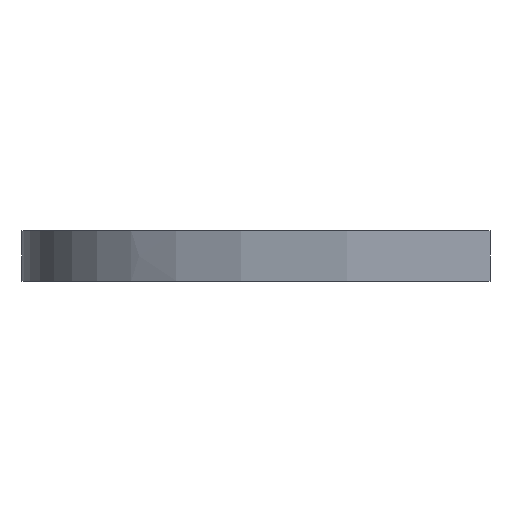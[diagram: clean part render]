
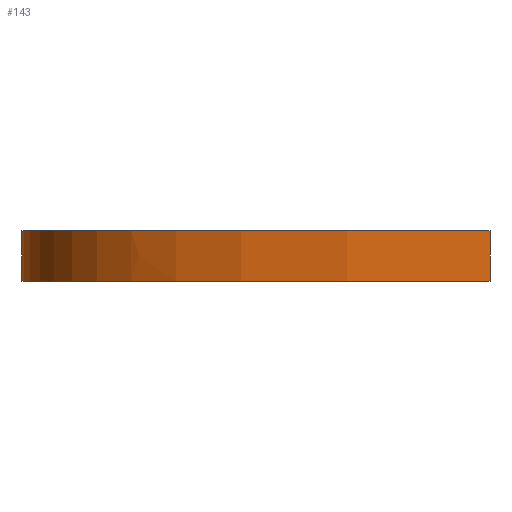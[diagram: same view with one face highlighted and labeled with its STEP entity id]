
A CAD part, front view. The second image highlights one B-rep face of the part: STEP entity #143.
In plain terms, the highlighted face is a extrusion surface.
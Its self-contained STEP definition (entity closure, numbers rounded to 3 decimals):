
#21 = EDGE_CURVE('',#22,#24,#26,.T.);
#22 = VERTEX_POINT('',#23);
#23 = CARTESIAN_POINT('',(-15.,-293.8,0.));
#24 = VERTEX_POINT('',#25);
#25 = CARTESIAN_POINT('',(-15.,-293.8,15.));
#26 = SURFACE_CURVE('',#27,(#31,#45),.PCURVE_S1.);
#27 = LINE('',#28,#29);
#28 = CARTESIAN_POINT('',(-15.,-293.8,0.));
#29 = VECTOR('',#30,1.);
#30 = DIRECTION('',(0.,0.,1.));
#31 = PCURVE('',#32,#39);
#32 = SURFACE_OF_LINEAR_EXTRUSION('',#33,#37);
#33 = B_SPLINE_CURVE_WITH_KNOTS('',2,(#34,#35,#36),.UNSPECIFIED.,.F.,.F.
  ,(3,3),(0.,1.),.PIECEWISE_BEZIER_KNOTS.);
#34 = CARTESIAN_POINT('',(-15.,-293.8,0.));
#35 = CARTESIAN_POINT('',(-34.99,-293.8,0.));
#36 = CARTESIAN_POINT('',(-44.96,-267.45,0.));
#37 = VECTOR('',#38,1.);
#38 = DIRECTION('',(-0.,-0.,-1.));
#39 = DEFINITIONAL_REPRESENTATION('',(#40),#44);
#40 = LINE('',#41,#42);
#41 = CARTESIAN_POINT('',(0.,0.));
#42 = VECTOR('',#43,1.);
#43 = DIRECTION('',(0.,-1.));
#44 = ( GEOMETRIC_REPRESENTATION_CONTEXT(2) 
PARAMETRIC_REPRESENTATION_CONTEXT() REPRESENTATION_CONTEXT('2D SPACE',''
  ) );
#45 = PCURVE('',#46,#53);
#46 = SURFACE_OF_LINEAR_EXTRUSION('',#47,#51);
#47 = B_SPLINE_CURVE_WITH_KNOTS('',2,(#48,#49,#50),.UNSPECIFIED.,.F.,.F.
  ,(3,3),(0.,1.),.PIECEWISE_BEZIER_KNOTS.);
#48 = CARTESIAN_POINT('',(-15.,-293.8,0.));
#49 = CARTESIAN_POINT('',(-155.,-293.8,0.));
#50 = CARTESIAN_POINT('',(-155.,-201.3,0.));
#51 = VECTOR('',#52,1.);
#52 = DIRECTION('',(-0.,-0.,-1.));
#53 = DEFINITIONAL_REPRESENTATION('',(#54),#58);
#54 = LINE('',#55,#56);
#55 = CARTESIAN_POINT('',(0.,0.));
#56 = VECTOR('',#57,1.);
#57 = DIRECTION('',(0.,-1.));
#58 = ( GEOMETRIC_REPRESENTATION_CONTEXT(2) 
PARAMETRIC_REPRESENTATION_CONTEXT() REPRESENTATION_CONTEXT('2D SPACE',''
  ) );
#76 = PLANE('',#77);
#77 = AXIS2_PLACEMENT_3D('',#78,#79,#80);
#78 = CARTESIAN_POINT('',(-97.207,-98.858,15.));
#79 = DIRECTION('',(0.,0.,1.));
#80 = DIRECTION('',(1.,0.,0.));
#132 = PLANE('',#133);
#133 = AXIS2_PLACEMENT_3D('',#134,#135,#136);
#134 = CARTESIAN_POINT('',(-97.207,-98.858,0.));
#135 = DIRECTION('',(0.,0.,1.));
#136 = DIRECTION('',(1.,0.,0.));
#143 = ADVANCED_FACE('',(#144),#46,.T.);
#144 = FACE_BOUND('',#145,.T.);
#145 = EDGE_LOOP('',(#146,#147,#170,#201));
#146 = ORIENTED_EDGE('',*,*,#21,.T.);
#147 = ORIENTED_EDGE('',*,*,#148,.T.);
#148 = EDGE_CURVE('',#24,#149,#151,.T.);
#149 = VERTEX_POINT('',#150);
#150 = CARTESIAN_POINT('',(-155.,-201.3,15.));
#151 = SURFACE_CURVE('',#152,(#156,#163),.PCURVE_S1.);
#152 = B_SPLINE_CURVE_WITH_KNOTS('',2,(#153,#154,#155),.UNSPECIFIED.,.F.
  ,.F.,(3,3),(0.,1.),.PIECEWISE_BEZIER_KNOTS.);
#153 = CARTESIAN_POINT('',(-15.,-293.8,15.));
#154 = CARTESIAN_POINT('',(-155.,-293.8,15.));
#155 = CARTESIAN_POINT('',(-155.,-201.3,15.));
#156 = PCURVE('',#46,#157);
#157 = DEFINITIONAL_REPRESENTATION('',(#158),#162);
#158 = LINE('',#159,#160);
#159 = CARTESIAN_POINT('',(0.,-15.));
#160 = VECTOR('',#161,1.);
#161 = DIRECTION('',(1.,0.));
#162 = ( GEOMETRIC_REPRESENTATION_CONTEXT(2) 
PARAMETRIC_REPRESENTATION_CONTEXT() REPRESENTATION_CONTEXT('2D SPACE',''
  ) );
#163 = PCURVE('',#76,#164);
#164 = DEFINITIONAL_REPRESENTATION('',(#165),#169);
#165 = B_SPLINE_CURVE_WITH_KNOTS('',2,(#166,#167,#168),.UNSPECIFIED.,.F.
  ,.F.,(3,3),(0.,1.),.PIECEWISE_BEZIER_KNOTS.);
#166 = CARTESIAN_POINT('',(82.207,-194.942));
#167 = CARTESIAN_POINT('',(-57.793,-194.942));
#168 = CARTESIAN_POINT('',(-57.793,-102.442));
#169 = ( GEOMETRIC_REPRESENTATION_CONTEXT(2) 
PARAMETRIC_REPRESENTATION_CONTEXT() REPRESENTATION_CONTEXT('2D SPACE',''
  ) );
#170 = ORIENTED_EDGE('',*,*,#171,.F.);
#171 = EDGE_CURVE('',#172,#149,#174,.T.);
#172 = VERTEX_POINT('',#173);
#173 = CARTESIAN_POINT('',(-155.,-201.3,0.));
#174 = SURFACE_CURVE('',#175,(#179,#186),.PCURVE_S1.);
#175 = LINE('',#176,#177);
#176 = CARTESIAN_POINT('',(-155.,-201.3,0.));
#177 = VECTOR('',#178,1.);
#178 = DIRECTION('',(0.,0.,1.));
#179 = PCURVE('',#46,#180);
#180 = DEFINITIONAL_REPRESENTATION('',(#181),#185);
#181 = LINE('',#182,#183);
#182 = CARTESIAN_POINT('',(1.,0.));
#183 = VECTOR('',#184,1.);
#184 = DIRECTION('',(0.,-1.));
#185 = ( GEOMETRIC_REPRESENTATION_CONTEXT(2) 
PARAMETRIC_REPRESENTATION_CONTEXT() REPRESENTATION_CONTEXT('2D SPACE',''
  ) );
#186 = PCURVE('',#187,#195);
#187 = SURFACE_OF_LINEAR_EXTRUSION('',#188,#193);
#188 = B_SPLINE_CURVE_WITH_KNOTS('',3,(#189,#190,#191,#192),
  .UNSPECIFIED.,.F.,.F.,(4,4),(0.,1.),.PIECEWISE_BEZIER_KNOTS.);
#189 = CARTESIAN_POINT('',(-155.,-201.3,0.));
#190 = CARTESIAN_POINT('',(-155.,-108.8,0.));
#191 = CARTESIAN_POINT('',(-70.,-108.8,0.));
#192 = CARTESIAN_POINT('',(-140.,38.1,0.));
#193 = VECTOR('',#194,1.);
#194 = DIRECTION('',(-0.,-0.,-1.));
#195 = DEFINITIONAL_REPRESENTATION('',(#196),#200);
#196 = LINE('',#197,#198);
#197 = CARTESIAN_POINT('',(0.,0.));
#198 = VECTOR('',#199,1.);
#199 = DIRECTION('',(0.,-1.));
#200 = ( GEOMETRIC_REPRESENTATION_CONTEXT(2) 
PARAMETRIC_REPRESENTATION_CONTEXT() REPRESENTATION_CONTEXT('2D SPACE',''
  ) );
#201 = ORIENTED_EDGE('',*,*,#202,.F.);
#202 = EDGE_CURVE('',#22,#172,#203,.T.);
#203 = SURFACE_CURVE('',#204,(#208,#215),.PCURVE_S1.);
#204 = B_SPLINE_CURVE_WITH_KNOTS('',2,(#205,#206,#207),.UNSPECIFIED.,.F.
  ,.F.,(3,3),(0.,1.),.PIECEWISE_BEZIER_KNOTS.);
#205 = CARTESIAN_POINT('',(-15.,-293.8,0.));
#206 = CARTESIAN_POINT('',(-155.,-293.8,0.));
#207 = CARTESIAN_POINT('',(-155.,-201.3,0.));
#208 = PCURVE('',#46,#209);
#209 = DEFINITIONAL_REPRESENTATION('',(#210),#214);
#210 = LINE('',#211,#212);
#211 = CARTESIAN_POINT('',(0.,0.));
#212 = VECTOR('',#213,1.);
#213 = DIRECTION('',(1.,0.));
#214 = ( GEOMETRIC_REPRESENTATION_CONTEXT(2) 
PARAMETRIC_REPRESENTATION_CONTEXT() REPRESENTATION_CONTEXT('2D SPACE',''
  ) );
#215 = PCURVE('',#132,#216);
#216 = DEFINITIONAL_REPRESENTATION('',(#217),#221);
#217 = B_SPLINE_CURVE_WITH_KNOTS('',2,(#218,#219,#220),.UNSPECIFIED.,.F.
  ,.F.,(3,3),(0.,1.),.PIECEWISE_BEZIER_KNOTS.);
#218 = CARTESIAN_POINT('',(82.207,-194.942));
#219 = CARTESIAN_POINT('',(-57.793,-194.942));
#220 = CARTESIAN_POINT('',(-57.793,-102.442));
#221 = ( GEOMETRIC_REPRESENTATION_CONTEXT(2) 
PARAMETRIC_REPRESENTATION_CONTEXT() REPRESENTATION_CONTEXT('2D SPACE',''
  ) );
